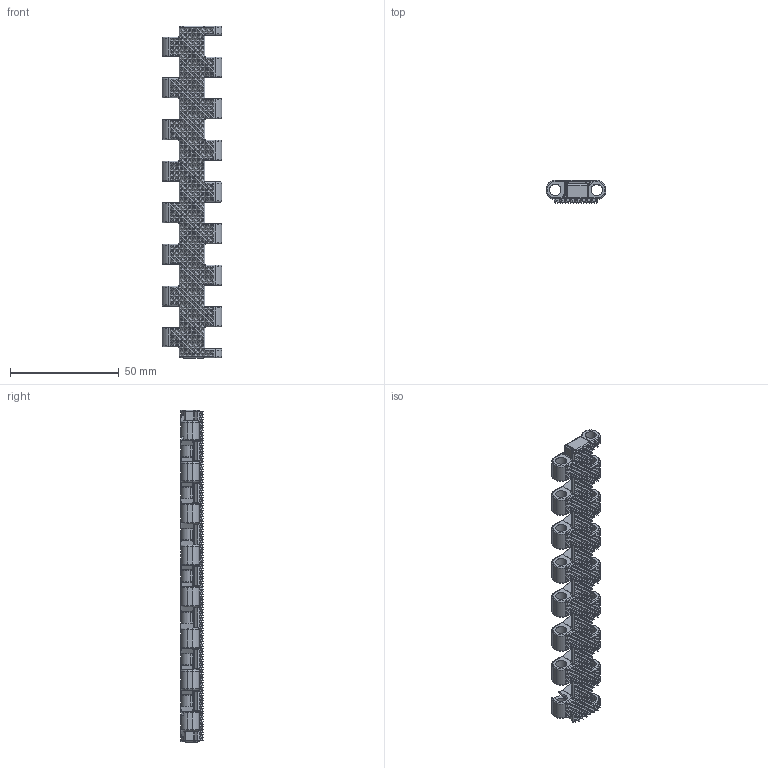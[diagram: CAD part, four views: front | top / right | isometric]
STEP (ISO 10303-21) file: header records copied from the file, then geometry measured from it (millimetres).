
FILE_DESCRIPTION((''),'2;1');
FILE_NAME('P154','2013-09-27T',('mth'),(''),'PRO/ENGINEER BY PARAMETRIC TECHNOLOGY CORPORATION, 2013230','PRO/ENGINEER BY PARAMETRIC TECHNOLOGY CORPORATION, 2013230','');
FILE_SCHEMA(('AUTOMOTIVE_DESIGN { 1 0 10303 214 1 1 1 1 }'));
Products named in the file (1): P154
Bounding box: 27.53 x 10.5 x 152.4 mm (x, y, z)
Volume: 13278.2 mm3; surface area: 16885.7 mm2
Topology: 1 solids, 1 shells, 5366 faces, 9598 edges, 4243 vertices
Faces by surface type: plane 4330, cylinder 528, torus 250, bspline 172, sphere 84, cone 2
Entity records: 134674 total; most frequent: CARTESIAN_POINT 35513, DIRECTION 20656, ORIENTED_EDGE 19196, EDGE_CURVE 9598, VECTOR 7672, LINE 7672, AXIS2_PLACEMENT_3D 6492, EDGE_LOOP 5409
